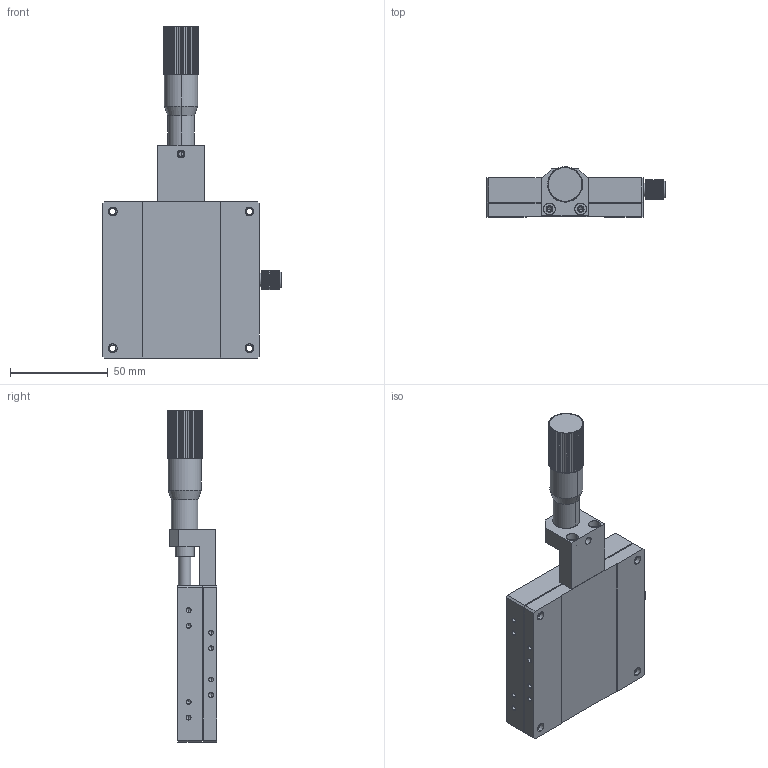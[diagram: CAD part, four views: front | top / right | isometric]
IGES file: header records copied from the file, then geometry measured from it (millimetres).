
Start section: SolidWorks IGES file using analytic representation for surfaces
Bounding box: 91.2 x 25.49 x 170 mm (x, y, z)
Surface area: 45285 mm2 (no closed solid volume)
Topology: 0 solids, 0 shells, 604 faces, 6939 edges, 6911 vertices
Faces by surface type: revolution 421, bspline 183
